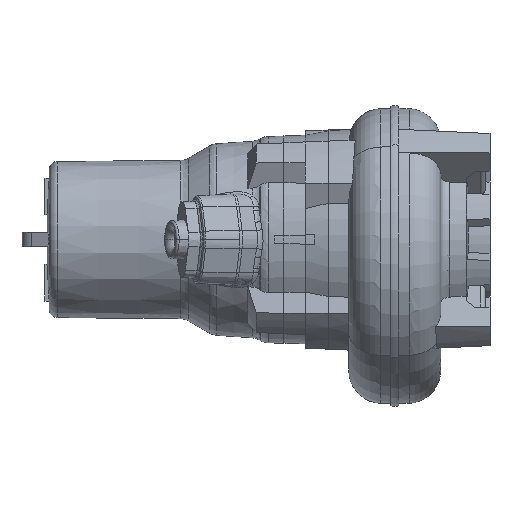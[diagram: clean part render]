
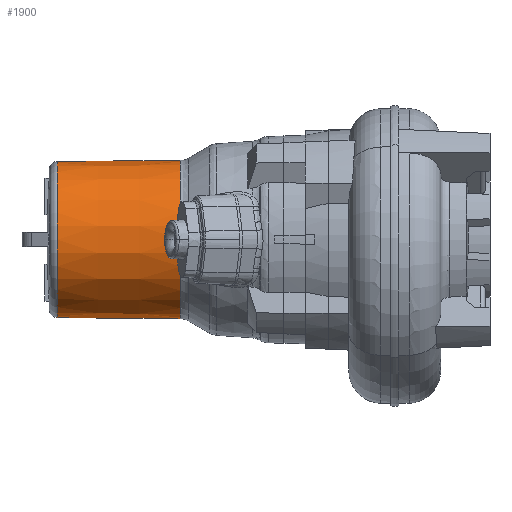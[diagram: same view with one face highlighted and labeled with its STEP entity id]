
A CAD part, left-side view. The second image highlights one B-rep face of the part: STEP entity #1900.
In plain terms, the highlighted conical face has half-angle 0.524 degrees and reference radius 95 mm.
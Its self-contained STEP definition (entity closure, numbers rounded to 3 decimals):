
#416 = CIRCLE ( 'NONE', #7375, 96.452 ) ;
#1521 = FACE_OUTER_BOUND ( 'NONE', #8535, .T. ) ;
#1761 = DIRECTION ( 'NONE',  ( 0., -1., 0.009 ) ) ;
#1900 = ADVANCED_FACE ( 'NONE', ( #1521 ), #20369, .T. ) ;
#2660 = CARTESIAN_POINT ( 'NONE',  ( 0., 278.855, 0. ) ) ;
#2762 = CARTESIAN_POINT ( 'NONE',  ( 0., 288., -95. ) ) ;
#5198 = EDGE_CURVE ( 'NONE', #24321, #16270, #416, .T. ) ;
#6164 = DIRECTION ( 'NONE',  ( 0., 0., -1. ) ) ;
#6307 = VECTOR ( 'NONE', #1761, 1000. ) ;
#6559 = ORIENTED_EDGE ( 'NONE', *, *, #24002, .T. ) ;
#6970 = VERTEX_POINT ( 'NONE', #15188 ) ;
#7299 = AXIS2_PLACEMENT_3D ( 'NONE', #12002, #20333, #9951 ) ;
#7375 = AXIS2_PLACEMENT_3D ( 'NONE', #8203, #16520, #6164 ) ;
#8144 = CIRCLE ( 'NONE', #15111, 95.084 ) ;
#8203 = CARTESIAN_POINT ( 'NONE',  ( 0., 129.261, 0. ) ) ;
#8535 = EDGE_LOOP ( 'NONE', ( #17162, #11970, #6559, #18920 ) ) ;
#9951 = DIRECTION ( 'NONE',  ( 0., 0., -1. ) ) ;
#10655 = EDGE_CURVE ( 'NONE', #25391, #6970, #8144, .T. ) ;
#11970 = ORIENTED_EDGE ( 'NONE', *, *, #10655, .T. ) ;
#12002 = CARTESIAN_POINT ( 'NONE',  ( 0., 288., 0. ) ) ;
#13261 = LINE ( 'NONE', #2762, #16268 ) ;
#14555 = CARTESIAN_POINT ( 'NONE',  ( 0., 288., 95. ) ) ;
#15111 = AXIS2_PLACEMENT_3D ( 'NONE', #2660, #19166, #19575 ) ;
#15188 = CARTESIAN_POINT ( 'NONE',  ( 0., 278.855, -95.084 ) ) ;
#15294 = DIRECTION ( 'NONE',  ( 0., -1., -0.009 ) ) ;
#16268 = VECTOR ( 'NONE', #15294, 1000. ) ;
#16270 = VERTEX_POINT ( 'NONE', #25545 ) ;
#16307 = CARTESIAN_POINT ( 'NONE',  ( 0., 278.855, 95.084 ) ) ;
#16520 = DIRECTION ( 'NONE',  ( 0., 1., 0. ) ) ;
#17162 = ORIENTED_EDGE ( 'NONE', *, *, #24511, .F. ) ;
#18920 = ORIENTED_EDGE ( 'NONE', *, *, #5198, .T. ) ;
#18928 = LINE ( 'NONE', #14555, #6307 ) ;
#19166 = DIRECTION ( 'NONE',  ( 0., -1., 0. ) ) ;
#19575 = DIRECTION ( 'NONE',  ( 0., 0., 1. ) ) ;
#20333 = DIRECTION ( 'NONE',  ( 0., -1., 0. ) ) ;
#20369 = CONICAL_SURFACE ( 'NONE', #7299, 95., 0.009 ) ;
#21287 = CARTESIAN_POINT ( 'NONE',  ( 0., 129.261, -96.452 ) ) ;
#24002 = EDGE_CURVE ( 'NONE', #6970, #24321, #13261, .T. ) ;
#24321 = VERTEX_POINT ( 'NONE', #21287 ) ;
#24511 = EDGE_CURVE ( 'NONE', #25391, #16270, #18928, .T. ) ;
#25391 = VERTEX_POINT ( 'NONE', #16307 ) ;
#25545 = CARTESIAN_POINT ( 'NONE',  ( 0., 129.261, 96.452 ) ) ;
